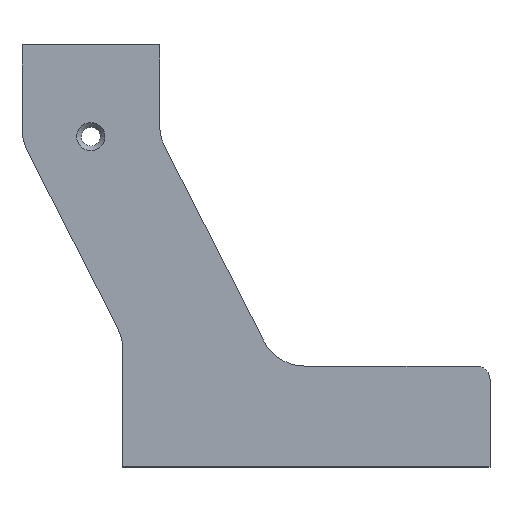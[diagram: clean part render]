
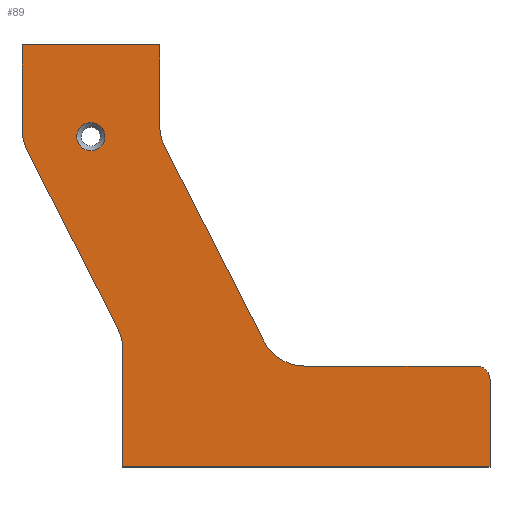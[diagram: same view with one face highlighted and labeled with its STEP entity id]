
A CAD part, top view. The second image highlights one B-rep face of the part: STEP entity #89.
In plain terms, the highlighted planar face has unit normal (0, 0, 1).
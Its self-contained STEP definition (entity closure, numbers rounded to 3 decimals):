
#89=ADVANCED_FACE('',(#339,#341),#343,.T.);
#339=FACE_BOUND('',#340,.T.);
#340=EDGE_LOOP('',(#555,#556,#557,#558,#559,#560,#561,#562,#563,#564,#565,#566,#567,
#568));
#341=FACE_BOUND('',#342,.T.);
#342=EDGE_LOOP('',(#569));
#343=PLANE('',#344);
#344=AXIS2_PLACEMENT_3D('',#345,#346,#347);
#345=CARTESIAN_POINT('',(0.,0.,16.));
#346=DIRECTION('',(0.,0.,1.));
#347=DIRECTION('',(-1.,0.,0.));
#555=ORIENTED_EDGE('',*,*,#661,.F.);
#556=ORIENTED_EDGE('',*,*,#662,.T.);
#557=ORIENTED_EDGE('',*,*,#663,.T.);
#558=ORIENTED_EDGE('',*,*,#664,.T.);
#559=ORIENTED_EDGE('',*,*,#665,.T.);
#560=ORIENTED_EDGE('',*,*,#666,.T.);
#561=ORIENTED_EDGE('',*,*,#641,.T.);
#562=ORIENTED_EDGE('',*,*,#660,.T.);
#563=ORIENTED_EDGE('',*,*,#667,.T.);
#564=ORIENTED_EDGE('',*,*,#668,.T.);
#565=ORIENTED_EDGE('',*,*,#669,.T.);
#566=ORIENTED_EDGE('',*,*,#670,.T.);
#567=ORIENTED_EDGE('',*,*,#671,.T.);
#568=ORIENTED_EDGE('',*,*,#672,.T.);
#569=ORIENTED_EDGE('',*,*,#673,.T.);
#641=EDGE_CURVE('',#699,#697,#700,.T.);
#660=EDGE_CURVE('',#697,#733,#735,.T.);
#661=EDGE_CURVE('',#736,#737,#738,.F.);
#662=EDGE_CURVE('',#736,#739,#740,.T.);
#663=EDGE_CURVE('',#739,#741,#742,.T.);
#664=EDGE_CURVE('',#741,#743,#744,.T.);
#665=EDGE_CURVE('',#743,#745,#746,.T.);
#666=EDGE_CURVE('',#745,#699,#747,.T.);
#667=EDGE_CURVE('',#733,#748,#749,.T.);
#668=EDGE_CURVE('',#748,#750,#751,.T.);
#669=EDGE_CURVE('',#750,#752,#753,.T.);
#670=EDGE_CURVE('',#752,#754,#755,.T.);
#671=EDGE_CURVE('',#754,#756,#757,.T.);
#672=EDGE_CURVE('',#756,#737,#758,.T.);
#673=EDGE_CURVE('',#759,#759,#760,.F.);
#697=VERTEX_POINT('',#795);
#699=VERTEX_POINT('',#799);
#700=LINE('',#800,#801);
#733=VERTEX_POINT('',#877);
#735=LINE('',#881,#882);
#736=VERTEX_POINT('',#884);
#737=VERTEX_POINT('',#885);
#738=CIRCLE('',#886,3.);
#739=VERTEX_POINT('',#890);
#740=LINE('',#891,#892);
#741=VERTEX_POINT('',#894);
#742=CIRCLE('',#895,10.);
#743=VERTEX_POINT('',#899);
#744=LINE('',#900,#901);
#745=VERTEX_POINT('',#903);
#746=CIRCLE('',#904,10.);
#747=LINE('',#908,#909);
#748=VERTEX_POINT('',#911);
#749=CIRCLE('',#912,10.);
#750=VERTEX_POINT('',#916);
#751=LINE('',#917,#918);
#752=VERTEX_POINT('',#920);
#753=CIRCLE('',#921,10.);
#754=VERTEX_POINT('',#925);
#755=LINE('',#926,#927);
#756=VERTEX_POINT('',#929);
#757=LINE('',#930,#931);
#758=LINE('',#933,#934);
#759=VERTEX_POINT('',#936);
#760=CIRCLE('',#937,3.067);
#795=CARTESIAN_POINT('',(-22.,90.,16.));
#799=CARTESIAN_POINT('',(8.,90.,16.));
#800=CARTESIAN_POINT('',(8.,90.,16.));
#801=VECTOR('',#802,1.);
#802=DIRECTION('',(-1.,0.,0.));
#877=CARTESIAN_POINT('',(-22.,71.578,16.));
#881=CARTESIAN_POINT('',(-22.,90.,16.));
#882=VECTOR('',#883,1.);
#883=DIRECTION('',(0.,-1.,0.));
#884=CARTESIAN_POINT('',(77.,20.,16.));
#885=CARTESIAN_POINT('',(80.,17.,16.));
#886=AXIS2_PLACEMENT_3D('',#887,#888,#889);
#887=CARTESIAN_POINT('',(77.,17.,16.));
#888=DIRECTION('',(0.,0.,1.));
#889=DIRECTION('',(1.,0.,0.));
#890=CARTESIAN_POINT('',(39.604,20.,16.));
#891=CARTESIAN_POINT('',(77.,20.,16.));
#892=VECTOR('',#893,1.);
#893=DIRECTION('',(-1.,0.,0.));
#894=CARTESIAN_POINT('',(30.694,25.46,16.));
#895=AXIS2_PLACEMENT_3D('',#896,#897,#898);
#896=CARTESIAN_POINT('',(39.604,30.,16.));
#897=DIRECTION('',(0.,0.,-1.));
#898=DIRECTION('',(0.,-1.,0.));
#899=CARTESIAN_POINT('',(9.09,67.861,16.));
#900=CARTESIAN_POINT('',(30.694,25.46,16.));
#901=VECTOR('',#902,1.);
#902=DIRECTION('',(-0.454,0.891,0.));
#903=CARTESIAN_POINT('',(8.,72.401,16.));
#904=AXIS2_PLACEMENT_3D('',#905,#906,#907);
#905=CARTESIAN_POINT('',(18.,72.401,16.));
#906=DIRECTION('',(0.,0.,-1.));
#907=DIRECTION('',(-0.891,-0.454,0.));
#908=CARTESIAN_POINT('',(8.,72.401,16.));
#909=VECTOR('',#910,1.);
#910=DIRECTION('',(0.,1.,0.));
#911=CARTESIAN_POINT('',(-20.91,67.038,16.));
#912=AXIS2_PLACEMENT_3D('',#913,#914,#915);
#913=CARTESIAN_POINT('',(-12.,71.578,16.));
#914=DIRECTION('',(0.,0.,1.));
#915=DIRECTION('',(-1.,0.,0.));
#916=CARTESIAN_POINT('',(-1.09,28.139,16.));
#917=CARTESIAN_POINT('',(-20.91,67.038,16.));
#918=VECTOR('',#919,1.);
#919=DIRECTION('',(0.454,-0.891,0.));
#920=CARTESIAN_POINT('',(0.,23.599,16.));
#921=AXIS2_PLACEMENT_3D('',#922,#923,#924);
#922=CARTESIAN_POINT('',(-10.,23.599,16.));
#923=DIRECTION('',(0.,0.,-1.));
#924=DIRECTION('',(0.891,0.454,0.));
#925=CARTESIAN_POINT('',(0.,-2.,16.));
#926=CARTESIAN_POINT('',(0.,23.599,16.));
#927=VECTOR('',#928,1.);
#928=DIRECTION('',(0.,-1.,0.));
#929=CARTESIAN_POINT('',(80.,-2.,16.));
#930=CARTESIAN_POINT('',(0.,-2.,16.));
#931=VECTOR('',#932,1.);
#932=DIRECTION('',(1.,0.,0.));
#933=CARTESIAN_POINT('',(80.,-2.,16.));
#934=VECTOR('',#935,1.);
#935=DIRECTION('',(0.,1.,0.));
#936=CARTESIAN_POINT('',(-10.067,70.,16.));
#937=AXIS2_PLACEMENT_3D('',#938,#939,#940);
#938=CARTESIAN_POINT('',(-7.,70.,16.));
#939=DIRECTION('',(0.,0.,1.));
#940=DIRECTION('',(-1.,0.,0.));
